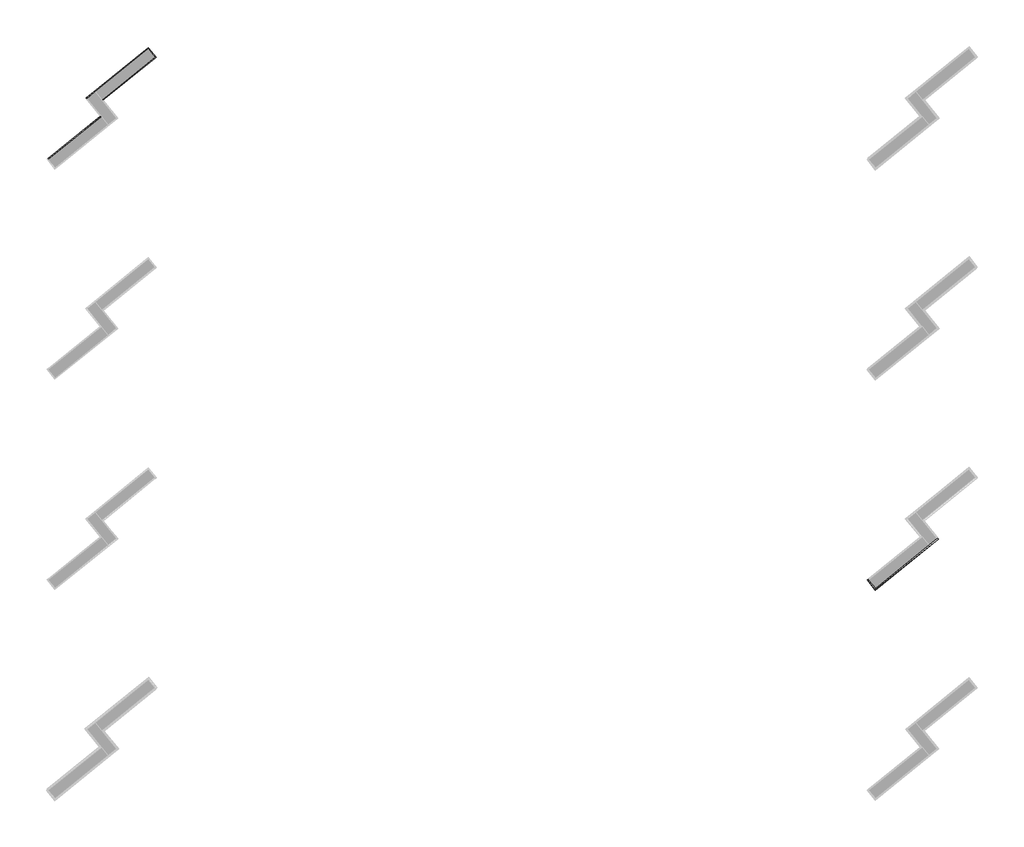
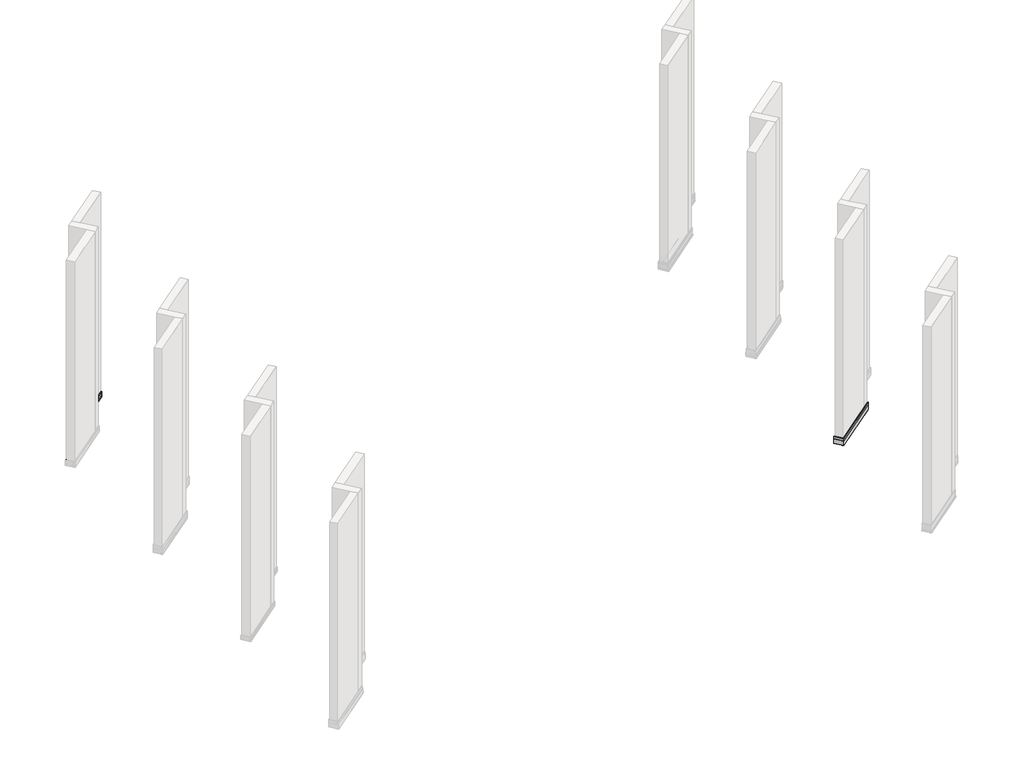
# One storey, part 12 of 21: 4 proxies.
"""IFC4 building model written with IfcOpenShell, lengths in millimetres."""

from ifc_helpers import new_model, si_unit, point, frame, frame_2d, origin, place, context, project, spatial, polyline, circle_curve, ellipse_curve, trimmed, segment, composite_curve, outline, extrude, element, save
from ifc_brep_helpers import plane_surface, cylinder_surface, advanced_brep

model = new_model("IFC4")

# Units and contexts
model_context = context("Model", 3, world=origin())
ifc_project = project(units=[si_unit("LENGTHUNIT", "METRE", prefix="MILLI")], contexts=[model_context])

# Site, building, storey
site = spatial("IfcSite", under=ifc_project)
building = spatial("IfcBuilding", under=site)
storey = spatial("IfcBuildingStorey", under=building, Name="Izofleks 2D View", Elevation=0.0)

# Proxies
placement = place(None, origin())
element("IfcBuildingElementProxy", 1, Name="Wall Sweeps", at=placement, inside=storey, context=model_context, shape_type="SweptSolid", body=[
    extrude(outline(composite_curve([segment(polyline([(6.2996999, -95.3491947), (4.6572618, -95.3491947), (6.6625595, -104.4590926)]), True, "CONTINUOUS"), segment(trimmed(circle_curve(frame_2d((6.1742498, -104.5665808)), 0.5), [point((6.6625595, -104.4590926))], [point((6.1742498, -105.0665808))], False, "CARTESIAN"), True, "CONTINUOUS"), segment(polyline([(6.1742498, -105.0665808), (5.266179, -105.0665808), (5.4147647, -105.8564137), (7.8223081, -105.8564137), (7.8223081, -78.8564259), (5.8223082, -78.8564259), (5.8223082, -77.5564259), (9.1226081, -77.5564259), (9.1226081, -153.5564259), (1.1226082, -153.5564259), (1.1226082, -152.2564232), (7.8223081, -152.2564232), (7.8223081, -136.7462137), (4.7731662, -136.7462137)]), True, "CONTINUOUS"), segment(trimmed(circle_curve(frame_2d((4.7731662, -136.2124127)), 0.533801), [point((4.7731662, -136.7462137))], [point((4.2445601, -136.1381219))], False, "CARTESIAN"), True, "CONTINUOUS"), segment(polyline([(4.2445601, -136.1381219), (2.3709258, -126.044573)]), True, "CONTINUOUS"), segment(trimmed(circle_curve(frame_2d((2.8625279, -125.9533184)), 0.5), [point((2.3709258, -126.044573))], [point((2.8625279, -125.4533184))], False, "CARTESIAN"), True, "CONTINUOUS"), segment(polyline([(2.8625279, -125.4533184), (3.7904143, -124.9389825), (1.3, -124.9389825), (1.3, -131.0491947)]), True, "CONTINUOUS"), segment(trimmed(circle_curve(frame_2d((0.3, -131.0491947)), 1.0), [point((1.3, -131.0491947))], [point((0.0, -132.0031339))], False, "CARTESIAN"), True, "CONTINUOUS"), segment(polyline([(0.0, -132.0031339), (0.0, -77.0491947), (1.3, -77.0491947), (1.3, -94.0491947), (6.2996999, -94.0491947)]), True, "CONTINUOUS"), segment(trimmed(circle_curve(frame_2d((6.2996999, -94.5491947)), 0.5), [point((6.2996999, -94.0491947))], [point((6.7766696, -94.6991947))], False, "CARTESIAN"), True, "CONTINUOUS"), segment(trimmed(circle_curve(frame_2d((6.2996999, -94.8491947)), 0.5), [point((6.7766696, -94.6991947))], [point((6.2996999, -95.3491947))], False, "CARTESIAN"), True, "CONTINUOUS")], self_intersect=False)), frame((2288.0380278, -3173.6542987, -77.0491947), z_axis=(0.7771459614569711, 0.6293203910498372, 0.0), x_axis=(0.6293203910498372, -0.7771459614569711, 0.0)), (0.0, 0.0, 1.0), 650.0),
])
element("IfcBuildingElementProxy", 2, Name="Wall Sweeps", at=placement, inside=storey, context=model_context, shape_type="AdvancedBrep", body=[
    advanced_brep(
    [(2138.5310764, -3157.9404849, 18.3), (2137.8602347, -3157.8699766, 17.65), (2138.5310764, -3157.9404849, 17.0), (2145.5629862, -3158.6795684, 17.0), (2145.5629862, -3158.6795684, 0.0), (2147.3913925, -3158.8717417, 0.0), (2147.3913925, -3158.8717417, 54.9539392), (2145.5629862, -3158.6795684, 54.0), (2145.5629862, -3158.6795684, 47.8897878), (2142.0603023, -3158.3114215, 47.8897878), (2143.3653433, -3158.4485868, 48.4041237), (2144.0567651, -3158.5212582, 48.9953783), (2141.4215615, -3158.2442871, 59.0889272), (2140.6780948, -3158.1661456, 59.697019), (2136.3895792, -3157.7154045, 59.697019), (2136.3895792, -3157.7154045, 75.2072285), (2145.8124819, -3158.7057915, 75.2072285), (2145.8124819, -3158.7057915, 76.5072312), (2134.560751, -3157.5231869, 76.5072312), (2134.560751, -3157.5231869, 0.5072312), (2139.2025119, -3158.0110556, 0.5072312), (2139.2025119, -3158.0110556, 1.8072312), (2136.3895792, -3157.7154045, 1.8072312), (2136.3895792, -3157.7154045, 28.807219), (2139.7757082, -3158.071301, 28.807219), (2139.9846888, -3158.0932657, 28.0173861), (2138.7075178, -3157.9590297, 28.0173861), (2138.0207268, -3157.886845, 27.4098979), (2140.8411104, -3158.1832793, 18.3), (2730.939326, -2680.3311663, 18.3), (2731.1821203, -2678.0211323, 18.3), (2731.2357603, -2677.5107827, 27.4098979), (2731.1635756, -2678.1975737, 28.0173861), (2731.0293395, -2679.4747447, 28.0173861), (2731.0513043, -2679.2657641, 28.807219), (2731.4072008, -2675.8796351, 28.807219), (2731.4072008, -2675.8796351, 1.8072312), (2731.1115496, -2678.6925678, 1.8072312), (2731.1115496, -2678.6925678, 0.5072312), (2731.5994184, -2674.0508069, 0.5072312), (2731.5994184, -2674.0508069, 76.5072312), (2730.4168138, -2685.3025377, 76.5072312), (2730.4168138, -2685.3025377, 75.2072285), (2731.4072008, -2675.8796351, 75.2072285), (2731.4072008, -2675.8796351, 59.697019), (2730.9564596, -2680.1681506, 59.697019), (2730.8783181, -2680.9116174, 59.0889272), (2730.6013471, -2683.5468209, 48.9953783), (2730.6740184, -2682.8553991, 48.4041237), (2730.8111838, -2681.5503581, 47.8897878), (2730.4430368, -2685.0530421, 47.8897878), (2730.4430368, -2685.0530421, 54.0), (2730.2508636, -2686.8814484, 54.9539392), (2730.2508636, -2686.8814484, 0.0), (2225.1059886, -3095.9397026, 0.0), (2730.4430368, -2685.0530421, 0.0), (2730.4430368, -2685.0530421, 17.0), (2731.1821203, -2678.0211323, 17.0), (2731.2526286, -2677.3502906, 17.65), (2803.8197325, -2767.721113, 18.3), (2802.5433183, -2768.7547328, 18.3), (2804.1017273, -2767.4927581, 27.4098979), (2803.7222394, -2767.8000613, 28.0173861), (2803.0165359, -2768.3715287, 28.0173861), (2803.1320085, -2768.2780208, 28.807219), (2805.0030213, -2766.7629046, 28.807219), (2805.0030213, -2766.7629046, 1.8072312), (2803.4487294, -2768.0215454, 1.8072312), (2803.4487294, -2768.0215454, 0.5072312), (2806.0135442, -2765.9445993, 0.5072312), (2806.0135442, -2765.9445993, 76.5072312), (2799.7963765, -2770.9791624, 76.5072312), (2799.7963765, -2770.9791624, 75.2072285), (2805.0030213, -2766.7629046, 75.2072285), (2805.0030213, -2766.7629046, 59.697019), (2802.6333929, -2768.6817918, 59.697019), (2802.2225888, -2769.0144544, 59.0889272), (2800.7665015, -2770.1935706, 48.9953783), (2801.1485481, -2769.8841954, 48.4041237), (2801.8696513, -2769.3002576, 47.8897878), (2799.9342358, -2770.8675261, 47.8897878), (2799.9342358, -2770.8675261, 54.0), (2798.9239461, -2771.6856426, 54.9539392), (2798.9239461, -2771.6856426, 0.0), (2799.9342358, -2770.8675261, 0.0), (2799.9342358, -2770.8675261, 17.0), (2803.8197325, -2767.721113, 17.0), (2804.1904075, -2767.4209463, 17.65), (2793.1829027, -2764.5960445, 0.0)],
    [
        (0, 1, ellipse_curve(frame((2138.5310764, -3157.9404849, 17.8), z_axis=(-0.10452846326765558, -0.9945218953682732, 0.0), x_axis=(0.9945218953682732, -0.1045284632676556, 0.0)), 0.7071068, 0.5)),
        (1, 2, ellipse_curve(frame((2138.5310764, -3157.9404849, 17.5), z_axis=(-0.10452846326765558, -0.9945218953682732, 0.0), x_axis=(0.9945218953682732, -0.1045284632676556, 0.0)), 0.7071068, 0.5)),
        (2, 3),
        (3, 4),
        (4, 5),
        (5, 6),
        (6, 7, ellipse_curve(frame((2146.9694526, -3158.827394, 54.0), z_axis=(-0.10452846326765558, -0.9945218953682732, 0.0), x_axis=(0.9945218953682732, -0.1045284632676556, 0.0)), 1.4142136, 1.0)),
        (7, 8),
        (8, 9),
        (9, 10),
        (10, 11, ellipse_curve(frame((2143.3653433, -3158.4485868, 48.9041237), z_axis=(-0.10452846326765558, -0.9945218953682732, 0.0), x_axis=(0.9945218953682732, -0.10452846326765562, 0.0)), 0.7071068, 0.5)),
        (11, 12),
        (12, 13, ellipse_curve(frame((2140.6780948, -3158.1661456, 59.163218), z_axis=(-0.10452846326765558, -0.9945218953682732, 0.0), x_axis=(0.9945218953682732, -0.1045284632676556, 0.0)), 0.7549087, 0.533801)),
        (13, 14),
        (14, 15),
        (15, 16),
        (16, 17),
        (17, 18),
        (18, 19),
        (19, 20),
        (20, 21),
        (21, 22),
        (22, 23),
        (23, 24),
        (24, 25),
        (25, 26),
        (26, 27, ellipse_curve(frame((2138.7075178, -3157.9590297, 27.5173861), z_axis=(-0.10452846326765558, -0.9945218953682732, 0.0), x_axis=(0.9945218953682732, -0.1045284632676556, 0.0)), 0.7071068, 0.5)),
        (27, 28),
        (28, 0),
        (29, 30),
        (30, 0),
        (28, 29),
        (31, 29),
        (27, 31),
        (32, 31, ellipse_curve(frame((2731.1635756, -2678.1975737, 27.5173861), z_axis=(-0.9945218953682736, 0.10452846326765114, 0.0), x_axis=(0.10452846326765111, 0.9945218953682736, 0.0)), 0.7071068, 0.5)),
        (26, 32),
        (33, 32),
        (25, 33),
        (34, 33),
        (24, 34),
        (35, 34),
        (23, 35),
        (36, 35),
        (22, 36),
        (37, 36),
        (21, 37),
        (38, 37),
        (20, 38),
        (39, 38),
        (19, 39),
        (40, 39),
        (18, 40),
        (41, 40),
        (17, 41),
        (42, 41),
        (16, 42),
        (43, 42),
        (15, 43),
        (44, 43),
        (14, 44),
        (45, 44),
        (13, 45),
        (46, 45, ellipse_curve(frame((2730.9564596, -2680.1681506, 59.163218), z_axis=(-0.9945218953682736, 0.10452846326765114, 0.0), x_axis=(0.10452846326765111, 0.9945218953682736, 0.0)), 0.7549087, 0.533801)),
        (12, 46),
        (47, 46),
        (11, 47),
        (48, 47, ellipse_curve(frame((2730.6740184, -2682.8553991, 48.9041237), z_axis=(-0.9945218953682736, 0.10452846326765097, 0.0), x_axis=(0.104528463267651, 0.9945218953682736, 0.0)), 0.7071068, 0.5)),
        (10, 48),
        (49, 48),
        (9, 49),
        (50, 49),
        (8, 50),
        (51, 50),
        (7, 51),
        (52, 51, ellipse_curve(frame((2730.2952113, -2686.4595085, 54.0), z_axis=(-0.9945218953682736, 0.10452846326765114, 0.0), x_axis=(0.10452846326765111, 0.9945218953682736, 0.0)), 1.4142136, 1.0)),
        (6, 52),
        (53, 52),
        (5, 54),
        (54, 53),
        (55, 53),
        (4, 55),
        (56, 55),
        (3, 56),
        (57, 56),
        (2, 57),
        (58, 57, ellipse_curve(frame((2731.1821203, -2678.0211323, 17.5), z_axis=(-0.9945218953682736, 0.10452846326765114, 0.0), x_axis=(0.10452846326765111, 0.9945218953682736, 0.0)), 0.7071068, 0.5)),
        (1, 58),
        (30, 58, ellipse_curve(frame((2731.1821203, -2678.0211323, 17.8), z_axis=(-0.9945218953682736, 0.10452846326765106, 0.0), x_axis=(0.10452846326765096, 0.9945218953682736, 0.0)), 0.7071068, 0.5)),
        (59, 60),
        (60, 61),
        (61, 62, circle_curve(frame((2803.7222394, -2767.8000613, 27.5173861), z_axis=(0.6293203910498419, -0.7771459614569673, 0.0), x_axis=(0.758979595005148, 0.614609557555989, -0.2149536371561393)), 0.5)),
        (62, 63),
        (63, 64),
        (64, 65),
        (65, 66),
        (66, 67),
        (67, 68),
        (68, 69),
        (69, 70),
        (70, 71),
        (71, 72),
        (72, 73),
        (73, 74),
        (74, 75),
        (75, 76, circle_curve(frame((2802.6333929, -2768.6817918, 59.163218), z_axis=(0.6293203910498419, -0.7771459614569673, 0.0), x_axis=(0.7771459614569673, 0.6293203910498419, 0.0)), 0.533801)),
        (76, 77),
        (77, 78, circle_curve(frame((2801.1485481, -2769.8841954, 48.9041237), z_axis=(0.629320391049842, -0.7771459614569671, 0.0), x_axis=(-0.7640931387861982, -0.6187504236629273, 0.1825091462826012)), 0.5)),
        (78, 79),
        (79, 80),
        (80, 81),
        (81, 82, circle_curve(frame((2799.1570899, -2771.4968465, 54.0), z_axis=(0.6293203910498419, -0.7771459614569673, 0.0), x_axis=(0.7771459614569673, 0.6293203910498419, 0.0)), 1.0)),
        (82, 83),
        (83, 84),
        (84, 85),
        (85, 86),
        (86, 87, circle_curve(frame((2803.8197325, -2767.721113, 17.5), z_axis=(0.6293203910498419, -0.7771459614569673, 0.0), x_axis=(0.0, 0.0, -1.0)), 0.5)),
        (87, 59, circle_curve(frame((2803.8197325, -2767.721113, 17.8), z_axis=(0.629320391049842, -0.7771459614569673, 0.0), x_axis=(0.7771459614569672, 0.6293203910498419, -1.2369127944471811e-08)), 0.5)),
        (59, 30),
        (29, 60),
        (31, 61),
        (32, 62),
        (33, 63),
        (34, 64),
        (35, 65),
        (36, 66),
        (37, 67),
        (38, 68),
        (39, 69),
        (40, 70),
        (41, 71),
        (42, 72),
        (43, 73),
        (44, 74),
        (45, 75),
        (46, 76),
        (47, 77),
        (48, 78),
        (49, 79),
        (50, 80),
        (51, 81),
        (52, 82),
        (53, 88),
        (88, 83),
        (55, 84),
        (56, 85),
        (57, 86),
        (58, 87),
    ],
    [
        plane_surface(frame((2147.3913925, -3158.8717417, -304.8), z_axis=(-0.10452846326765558, -0.9945218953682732, 0.0), x_axis=(0.9945218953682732, -0.10452846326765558, 0.0))),
        plane_surface(frame((2731.1821203, -2678.0211323, 18.3), z_axis=(0.0, 0.0, 1.0000000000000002), x_axis=(-0.7771459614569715, -0.6293203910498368, 0.0))),
        plane_surface(frame((2730.939326, -2680.3311663, 18.3), z_axis=(-0.6146064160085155, 0.7589757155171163, -0.21497631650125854), x_axis=(-0.7771459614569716, -0.6293203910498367, 0.0))),
        cylinder_surface(frame((2726.3652823, -2682.083155, 27.5173861), z_axis=(0.7771459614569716, 0.6293203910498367, 0.0), x_axis=(-0.6146095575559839, 0.7589795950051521, -0.2149536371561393)), 0.5),
        plane_surface(frame((2731.1635756, -2678.1975737, 28.0173861), z_axis=(0.0, 0.0, 1.0), x_axis=(-0.7771459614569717, -0.6293203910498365, 0.0))),
        plane_surface(frame((2731.0293395, -2679.4747447, 28.0173861), z_axis=(-0.6184716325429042, 0.7637488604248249, -0.1848797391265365), x_axis=(-0.7771459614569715, -0.6293203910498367, 0.0))),
        plane_surface(frame((2731.0513043, -2679.2657641, 28.807219), z_axis=(0.0, 0.0, -1.0), x_axis=(-0.7771459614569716, -0.6293203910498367, 0.0))),
        plane_surface(frame((2731.4072008, -2675.8796351, 28.807219), z_axis=(0.6293203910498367, -0.7771459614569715, 0.0), x_axis=(-0.7771459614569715, -0.6293203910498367, 0.0))),
        plane_surface(frame((2731.4072008, -2675.8796351, 1.8072312), z_axis=(0.0, 0.0, 1.0), x_axis=(-0.7771459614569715, -0.6293203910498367, 0.0))),
        plane_surface(frame((2731.1115496, -2678.6925678, 1.8072312), z_axis=(0.6293203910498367, -0.7771459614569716, 0.0), x_axis=(-0.7771459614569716, -0.6293203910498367, 0.0))),
        plane_surface(frame((2731.1115496, -2678.6925678, 0.5072312), z_axis=(0.0, 0.0, -1.0), x_axis=(-0.7771459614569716, -0.6293203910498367, 0.0))),
        plane_surface(frame((2731.5994184, -2674.0508069, 0.5072312), z_axis=(-0.629320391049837, 0.7771459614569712, 0.0), x_axis=(-0.7771459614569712, -0.629320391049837, 0.0))),
        plane_surface(frame((2731.5994184, -2674.0508069, 76.5072312), z_axis=(0.0, 0.0, 1.0), x_axis=(-0.7771459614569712, -0.629320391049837, 0.0))),
        plane_surface(frame((2730.4168138, -2685.3025377, 76.5072312), z_axis=(0.6293203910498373, -0.777145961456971, 0.0), x_axis=(-0.777145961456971, -0.6293203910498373, 0.0))),
        plane_surface(frame((2730.4168138, -2685.3025377, 75.2072285), z_axis=(0.0, 0.0, -1.0), x_axis=(-0.777145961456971, -0.6293203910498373, 0.0))),
        plane_surface(frame((2731.4072008, -2675.8796351, 75.2072285), z_axis=(0.6293203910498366, -0.7771459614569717, 0.0), x_axis=(-0.7771459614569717, -0.6293203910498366, 0.0))),
        plane_surface(frame((2731.4072008, -2675.8796351, 59.697019), z_axis=(0.0, 0.0, 1.0000000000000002), x_axis=(-0.7771459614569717, -0.6293203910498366, 0.0))),
        cylinder_surface(frame((2727.2470127, -2683.1720015, 59.163218), z_axis=(0.7771459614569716, 0.6293203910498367, 0.0), x_axis=(-0.6293203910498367, 0.7771459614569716, 0.0)), 0.533801),
        plane_surface(frame((2730.8783181, -2680.9116174, 59.0889272), z_axis=(0.618750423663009, -0.7640931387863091, 0.18250914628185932), x_axis=(-0.7771459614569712, -0.6293203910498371, 0.0))),
        cylinder_surface(frame((2728.4494164, -2684.6568463, 48.9041237), z_axis=(0.7771459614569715, 0.6293203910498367, 0.0), x_axis=(0.6187504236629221, -0.7640931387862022, 0.18250914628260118)), 0.5),
        plane_surface(frame((2730.6740184, -2682.8553991, 48.4041237), z_axis=(0.30510057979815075, -0.3767678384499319, -0.8746197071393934), x_axis=(-0.7771459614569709, -0.6293203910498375, 0.0))),
        plane_surface(frame((2730.8111838, -2681.5503581, 47.8897878), z_axis=(0.0, 0.0, 1.0), x_axis=(-0.7771459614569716, -0.6293203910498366, 0.0))),
        plane_surface(frame((2730.4430368, -2685.0530421, 47.8897878), z_axis=(-0.6293203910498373, 0.7771459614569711, 0.0), x_axis=(-0.7771459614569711, -0.6293203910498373, 0.0))),
        cylinder_surface(frame((2730.0620675, -2686.6483046, 54.0), z_axis=(0.7771459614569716, 0.6293203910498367, 0.0), x_axis=(-0.6293203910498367, 0.7771459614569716, 0.0)), 1.0),
        plane_surface(frame((2730.2508636, -2686.8814484, 54.9539392), z_axis=(0.6293203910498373, -0.777145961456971, 0.0), x_axis=(-0.777145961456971, -0.6293203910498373, 0.0))),
        plane_surface(frame((2730.2508636, -2686.8814484, 0.0), z_axis=(0.0, 0.0, -1.0), x_axis=(-0.777145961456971, -0.6293203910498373, 0.0))),
        plane_surface(frame((2730.4430368, -2685.0530421, 0.0), z_axis=(-0.6293203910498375, 0.7771459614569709, 0.0), x_axis=(-0.7771459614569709, -0.6293203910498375, 0.0))),
        plane_surface(frame((2730.4430368, -2685.0530421, 17.0), z_axis=(0.0, 0.0, -1.0), x_axis=(-0.7771459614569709, -0.6293203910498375, 0.0))),
        cylinder_surface(frame((2726.2863339, -2681.985662, 17.5), z_axis=(0.7771459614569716, 0.6293203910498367, 0.0), x_axis=(0.0, 0.0, -1.0)), 0.5),
        cylinder_surface(frame((2726.2863339, -2681.985662, 17.8), z_axis=(0.7771459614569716, 0.6293203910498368, 0.0), x_axis=(-0.6293203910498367, 0.7771459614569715, -1.2369127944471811e-08)), 0.5),
        plane_surface(frame((2798.9239461, -2771.6856426, 0.0), z_axis=(0.6293203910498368, -0.7771459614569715, 0.0), x_axis=(-0.7771459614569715, -0.6293203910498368, 0.0))),
        plane_surface(frame((2803.8197325, -2767.721113, 18.3), z_axis=(0.0, 0.0, 1.0000000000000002), x_axis=(-0.6293203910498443, 0.7771459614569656, 0.0))),
        plane_surface(frame((2802.5433183, -2768.7547328, 18.3), z_axis=(0.7589757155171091, 0.6146064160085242, -0.21497631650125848), x_axis=(-0.6293203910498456, 0.7771459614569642, 0.0))),
        cylinder_surface(frame((2803.7222394, -2767.8000613, 27.5173861), z_axis=(0.6293203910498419, -0.7771459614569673, 0.0), x_axis=(0.758979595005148, 0.614609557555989, -0.2149536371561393)), 0.5),
        plane_surface(frame((2803.7222394, -2767.8000613, 28.0173861), z_axis=(0.0, 0.0, 1.0), x_axis=(-0.6293203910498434, 0.7771459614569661, 0.0))),
        plane_surface(frame((2803.0165359, -2768.3715287, 28.0173861), z_axis=(0.7637488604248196, 0.618471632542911, -0.1848797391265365), x_axis=(-0.6293203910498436, 0.7771459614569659, 0.0))),
        plane_surface(frame((2803.1320085, -2768.2780208, 28.807219), z_axis=(0.0, 0.0, -1.0), x_axis=(-0.6293203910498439, 0.7771459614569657, 0.0))),
        plane_surface(frame((2805.0030213, -2766.7629046, 28.807219), z_axis=(-0.7771459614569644, -0.6293203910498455, 0.0), x_axis=(-0.6293203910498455, 0.7771459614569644, 0.0))),
        plane_surface(frame((2805.0030213, -2766.7629046, 1.8072312), z_axis=(0.0, 0.0, 1.0), x_axis=(-0.6293203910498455, 0.7771459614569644, 0.0))),
        plane_surface(frame((2803.4487294, -2768.0215454, 1.8072312), z_axis=(-0.7771459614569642, -0.6293203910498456, 0.0), x_axis=(-0.6293203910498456, 0.7771459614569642, 0.0))),
        plane_surface(frame((2803.4487294, -2768.0215454, 0.5072312), z_axis=(0.0, 0.0, -1.0), x_axis=(-0.6293203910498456, 0.7771459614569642, 0.0))),
        plane_surface(frame((2806.0135442, -2765.9445993, 0.5072312), z_axis=(0.7771459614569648, 0.629320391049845, 0.0), x_axis=(-0.629320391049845, 0.7771459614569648, 0.0))),
        plane_surface(frame((2806.0135442, -2765.9445993, 76.5072312), z_axis=(0.0, 0.0, 1.0000000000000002), x_axis=(-0.629320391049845, 0.7771459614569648, 0.0))),
        plane_surface(frame((2799.7963765, -2770.9791624, 76.5072312), z_axis=(-0.7771459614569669, -0.6293203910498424, 0.0), x_axis=(-0.6293203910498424, 0.7771459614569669, 0.0))),
        plane_surface(frame((2799.7963765, -2770.9791624, 75.2072285), z_axis=(0.0, 0.0, -1.0), x_axis=(-0.6293203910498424, 0.7771459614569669, 0.0))),
        plane_surface(frame((2805.0030213, -2766.7629046, 75.2072285), z_axis=(-0.777145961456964, -0.629320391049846, 0.0), x_axis=(-0.629320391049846, 0.777145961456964, 0.0))),
        plane_surface(frame((2805.0030213, -2766.7629046, 59.697019), z_axis=(0.0, 0.0, 1.0000000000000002), x_axis=(-0.629320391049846, 0.777145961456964, 0.0))),
        cylinder_surface(frame((2802.6333929, -2768.6817918, 59.163218), z_axis=(0.6293203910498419, -0.7771459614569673, 0.0), x_axis=(0.7771459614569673, 0.6293203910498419, 0.0)), 0.533801),
        plane_surface(frame((2802.2225888, -2769.0144544, 59.0889272), z_axis=(-0.7640931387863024, -0.6187504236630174, 0.18250914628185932), x_axis=(-0.6293203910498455, 0.7771459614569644, 0.0))),
        cylinder_surface(frame((2801.1485481, -2769.8841954, 48.9041237), z_axis=(0.6293203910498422, -0.7771459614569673, 0.0), x_axis=(-0.7640931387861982, -0.6187504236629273, 0.1825091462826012)), 0.5),
        plane_surface(frame((2801.1485481, -2769.8841954, 48.4041237), z_axis=(-0.37676783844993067, -0.3051005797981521, -0.8746197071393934), x_axis=(-0.6293203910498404, 0.7771459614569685, 0.0))),
        plane_surface(frame((2801.8696513, -2769.3002576, 47.8897878), z_axis=(0.0, 0.0, 1.0), x_axis=(-0.6293203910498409, 0.777145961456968, 0.0))),
        plane_surface(frame((2799.9342358, -2770.8675261, 47.8897878), z_axis=(0.7771459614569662, 0.6293203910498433, 0.0), x_axis=(-0.6293203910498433, 0.7771459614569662, 0.0))),
        cylinder_surface(frame((2799.1570899, -2771.4968465, 54.0), z_axis=(0.6293203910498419, -0.7771459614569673, 0.0), x_axis=(0.7771459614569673, 0.6293203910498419, 0.0)), 1.0),
        plane_surface(frame((2798.9239461, -2771.6856426, 54.9539392), z_axis=(-0.777145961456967, -0.6293203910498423, 0.0), x_axis=(-0.6293203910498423, 0.777145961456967, 0.0))),
        plane_surface(frame((2798.9239461, -2771.6856426, 0.0), z_axis=(0.0, 0.0, -1.0), x_axis=(-0.6293203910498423, 0.777145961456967, 0.0))),
        plane_surface(frame((2799.9342358, -2770.8675261, 0.0), z_axis=(0.7771459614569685, 0.6293203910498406, 0.0), x_axis=(-0.6293203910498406, 0.7771459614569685, 0.0))),
        plane_surface(frame((2799.9342358, -2770.8675261, 17.0), z_axis=(0.0, 0.0, -1.0000000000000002), x_axis=(-0.6293203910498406, 0.7771459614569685, 0.0))),
        cylinder_surface(frame((2803.8197325, -2767.721113, 17.5), z_axis=(0.6293203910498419, -0.7771459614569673, 0.0), x_axis=(0.0, 0.0, -1.0)), 0.5),
        cylinder_surface(frame((2803.8197325, -2767.721113, 17.8), z_axis=(0.629320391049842, -0.7771459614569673, 0.0), x_axis=(0.7771459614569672, 0.6293203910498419, -1.2369127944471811e-08)), 0.5),
    ],
    [
        (0, [[1, 2, 3, 4, 5, 6, 7, 8, 9, 10, 11, 12, 13, 14, 15, 16, 17, 18, 19, 20, 21, 22, 23, 24, 25, 26, 27, 28, 29]]),
        (1, [[30, 31, -29, 32]]),
        (2, [[33, -32, -28, 34]]),
        (3, [[35, -34, -27, 36]]),
        (4, [[37, -36, -26, 38]]),
        (5, [[39, -38, -25, 40]]),
        (6, [[41, -40, -24, 42]]),
        (7, [[43, -42, -23, 44]]),
        (8, [[45, -44, -22, 46]]),
        (9, [[47, -46, -21, 48]]),
        (10, [[49, -48, -20, 50]]),
        (11, [[51, -50, -19, 52]]),
        (12, [[53, -52, -18, 54]]),
        (13, [[55, -54, -17, 56]]),
        (14, [[57, -56, -16, 58]]),
        (15, [[59, -58, -15, 60]]),
        (16, [[61, -60, -14, 62]]),
        (17, [[63, -62, -13, 64]]),
        (18, [[65, -64, -12, 66]]),
        (19, [[67, -66, -11, 68]]),
        (20, [[69, -68, -10, 70]]),
        (21, [[71, -70, -9, 72]]),
        (22, [[73, -72, -8, 74]]),
        (23, [[75, -74, -7, 76]]),
        (24, [[77, -76, -6, 78, 79]]),
        (25, [[80, -79, -78, -5, 81]]),
        (26, [[82, -81, -4, 83]]),
        (27, [[84, -83, -3, 85]]),
        (28, [[86, -85, -2, 87]]),
        (29, [[88, -87, -1, -31]]),
        (30, [[89, 90, 91, 92, 93, 94, 95, 96, 97, 98, 99, 100, 101, 102, 103, 104, 105, 106, 107, 108, 109, 110, 111, 112, 113, 114, 115, 116, 117]]),
        (31, [[-89, 118, -30, 119]]),
        (32, [[-90, -119, -33, 120]]),
        (33, [[-91, -120, -35, 121]]),
        (34, [[-92, -121, -37, 122]]),
        (35, [[-93, -122, -39, 123]]),
        (36, [[-94, -123, -41, 124]]),
        (37, [[-95, -124, -43, 125]]),
        (38, [[-96, -125, -45, 126]]),
        (39, [[-97, -126, -47, 127]]),
        (40, [[-98, -127, -49, 128]]),
        (41, [[-99, -128, -51, 129]]),
        (42, [[-100, -129, -53, 130]]),
        (43, [[-101, -130, -55, 131]]),
        (44, [[-102, -131, -57, 132]]),
        (45, [[-103, -132, -59, 133]]),
        (46, [[-104, -133, -61, 134]]),
        (47, [[-105, -134, -63, 135]]),
        (48, [[-106, -135, -65, 136]]),
        (49, [[-107, -136, -67, 137]]),
        (50, [[-108, -137, -69, 138]]),
        (51, [[-109, -138, -71, 139]]),
        (52, [[-110, -139, -73, 140]]),
        (53, [[-111, -140, -75, 141]]),
        (54, [[-112, -141, -77, 142, 143]]),
        (55, [[-113, -143, -142, -80, 144]]),
        (56, [[-114, -144, -82, 145]]),
        (57, [[-115, -145, -84, 146]]),
        (58, [[-116, -146, -86, 147]]),
        (59, [[-117, -147, -88, -118]]),
    ],
),
])
element("IfcBuildingElementProxy", 3, Name="Wall Sweeps", at=placement, inside=storey, context=model_context, shape_type="AdvancedBrep", body=[
    advanced_brep(
    [(2276.9815624, -3328.9125964, 18.3), (2279.2915965, -3329.1553908, 18.3), (2276.4712128, -3328.8589565, 27.4098979), (2277.1580039, -3328.9311412, 28.0173861), (2278.4351748, -3329.0653773, 28.0173861), (2278.2261942, -3329.0434125, 28.807219), (2274.8400653, -3328.687516, 28.807219), (2274.8400653, -3328.687516, 1.8072312), (2277.652998, -3328.9831672, 1.8072312), (2277.652998, -3328.9831672, 0.5072312), (2273.0112371, -3328.4952984, 0.5072312), (2273.0112371, -3328.4952984, 76.5072312), (2284.2629679, -3329.677903, 76.5072312), (2284.2629679, -3329.677903, 75.2072285), (2274.8400653, -3328.687516, 75.2072285), (2274.8400653, -3328.687516, 59.697019), (2279.1285808, -3329.1382572, 59.697019), (2279.8720475, -3329.2163987, 59.0889272), (2282.5072511, -3329.4933697, 48.9953783), (2281.8158293, -3329.4206984, 48.4041237), (2280.5107883, -3329.283533, 47.8897878), (2284.0134723, -3329.6516799, 47.8897878), (2284.0134723, -3329.6516799, 54.0), (2285.8418785, -3329.8438532, 54.9539392), (2285.8418785, -3329.8438532, 0.0), (2284.0134723, -3329.6516799, 0.0), (2284.0134723, -3329.6516799, 17.0), (2276.9815625, -3328.9125964, 17.0), (2276.3107208, -3328.8420881, 17.65), (1776.7324739, -3734.0063209, 18.3), (1776.4323072, -3733.635646, 17.65), (1776.7324739, -3734.006321, 17.0), (1779.8788871, -3737.8918176, 17.0), (1779.8788871, -3737.8918176, 0.0), (1780.6970036, -3738.9021074, 0.0), (1780.6970036, -3738.9021074, 54.9539392), (1779.8788871, -3737.8918176, 54.0), (1779.8788871, -3737.8918176, 47.8897878), (1778.3116185, -3735.9564022, 47.8897878), (1778.8955564, -3736.6775053, 48.4041237), (1779.2049316, -3737.0595519, 48.9953783), (1778.0258153, -3735.6034646, 59.0889272), (1777.6931527, -3735.1926605, 59.697019), (1775.7742655, -3732.8230321, 59.697019), (1775.7742655, -3732.8230321, 75.2072285), (1779.9905234, -3738.0296769, 75.2072285), (1779.9905234, -3738.0296769, 76.5072312), (1774.9559602, -3731.8125092, 76.5072312), (1774.9559602, -3731.8125092, 0.5072312), (1777.0329063, -3734.3773241, 0.5072312), (1777.0329063, -3734.3773241, 1.8072312), (1775.7742655, -3732.8230321, 1.8072312), (1775.7742655, -3732.8230321, 28.807219), (1777.2893818, -3734.6940449, 28.807219), (1777.3828897, -3734.8095175, 28.0173861), (1776.8114223, -3734.103814, 28.0173861), (1776.5041191, -3733.7243262, 27.4098979), (1777.7660937, -3735.2827351, 18.3)],
    [
        (0, 1),
        (1, 2),
        (2, 3, ellipse_curve(frame((2277.1580039, -3328.9311412, 27.5173861), z_axis=(0.1045284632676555, 0.9945218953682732, 0.0), x_axis=(0.9945218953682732, -0.10452846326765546, 0.0)), 0.7071068, 0.5)),
        (3, 4),
        (4, 5),
        (5, 6),
        (6, 7),
        (7, 8),
        (8, 9),
        (9, 10),
        (10, 11),
        (11, 12),
        (12, 13),
        (13, 14),
        (14, 15),
        (15, 16),
        (16, 17, ellipse_curve(frame((2279.1285808, -3329.1382572, 59.163218), z_axis=(0.1045284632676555, 0.9945218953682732, 0.0), x_axis=(0.9945218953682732, -0.10452846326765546, 0.0)), 0.7549087, 0.533801)),
        (17, 18),
        (18, 19, ellipse_curve(frame((2281.8158293, -3329.4206984, 48.9041237), z_axis=(0.1045284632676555, 0.9945218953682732, 0.0), x_axis=(0.9945218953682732, -0.10452846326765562, 0.0)), 0.7071068, 0.5)),
        (19, 20),
        (20, 21),
        (21, 22),
        (22, 23, ellipse_curve(frame((2285.4199386, -3329.7995055, 54.0), z_axis=(0.1045284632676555, 0.9945218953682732, 0.0), x_axis=(0.9945218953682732, -0.10452846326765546, 0.0)), 1.4142136, 1.0)),
        (23, 24),
        (24, 25),
        (25, 26),
        (26, 27),
        (27, 28, ellipse_curve(frame((2276.9815625, -3328.9125964, 17.5), z_axis=(0.1045284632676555, 0.9945218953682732, 0.0), x_axis=(0.9945218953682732, -0.10452846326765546, 0.0)), 0.7071068, 0.5)),
        (28, 0, ellipse_curve(frame((2276.9815624, -3328.9125964, 17.8), z_axis=(0.1045284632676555, 0.9945218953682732, 0.0), x_axis=(0.9945218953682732, -0.10452846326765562, 0.0)), 0.7071068, 0.5)),
        (29, 30, circle_curve(frame((1776.7324739, -3734.0063209, 17.8), z_axis=(-0.7771459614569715, -0.629320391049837, 0.0), x_axis=(-0.6293203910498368, 0.7771459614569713, -1.2369127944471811e-08)), 0.5)),
        (30, 31, circle_curve(frame((1776.7324739, -3734.006321, 17.5), z_axis=(-0.7771459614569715, -0.6293203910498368, 0.0), x_axis=(0.0, 0.0, -1.0)), 0.5)),
        (31, 32),
        (32, 33),
        (33, 34),
        (34, 35),
        (35, 36, circle_curve(frame((1780.5082075, -3738.6689636, 54.0), z_axis=(-0.7771459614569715, -0.6293203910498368, 0.0), x_axis=(-0.6293203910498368, 0.7771459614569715, 0.0)), 1.0)),
        (36, 37),
        (37, 38),
        (38, 39),
        (39, 40, circle_curve(frame((1778.8955564, -3736.6775053, 48.9041237), z_axis=(-0.7771459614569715, -0.6293203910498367, 0.0), x_axis=(0.6187504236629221, -0.7640931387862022, 0.18250914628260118)), 0.5)),
        (40, 41),
        (41, 42, circle_curve(frame((1777.6931527, -3735.1926605, 59.163218), z_axis=(-0.7771459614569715, -0.6293203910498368, 0.0), x_axis=(-0.6293203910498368, 0.7771459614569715, 0.0)), 0.533801)),
        (42, 43),
        (43, 44),
        (44, 45),
        (45, 46),
        (46, 47),
        (47, 48),
        (48, 49),
        (49, 50),
        (50, 51),
        (51, 52),
        (52, 53),
        (53, 54),
        (54, 55),
        (55, 56, circle_curve(frame((1776.8114223, -3734.103814, 27.5173861), z_axis=(-0.7771459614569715, -0.6293203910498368, 0.0), x_axis=(-0.614609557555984, 0.758979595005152, -0.2149536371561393)), 0.5)),
        (56, 57),
        (57, 29),
        (0, 29),
        (57, 1),
        (56, 2),
        (55, 3),
        (54, 4),
        (53, 5),
        (52, 6),
        (51, 7),
        (50, 8),
        (49, 9),
        (48, 10),
        (47, 11),
        (46, 12),
        (45, 13),
        (44, 14),
        (43, 15),
        (42, 16),
        (41, 17),
        (40, 18),
        (39, 19),
        (38, 20),
        (37, 21),
        (36, 22),
        (35, 23),
        (34, 24),
        (33, 25),
        (32, 26),
        (31, 27),
        (30, 28),
    ],
    [
        plane_surface(frame((2285.8418785, -3329.8438532, 304.8), z_axis=(0.1045284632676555, 0.9945218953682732, 0.0), x_axis=(-0.9945218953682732, 0.1045284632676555, 0.0))),
        plane_surface(frame((1780.6970036, -3738.9021074, -77.0491947), z_axis=(-0.7771459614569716, -0.6293203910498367, 0.0), x_axis=(0.6293203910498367, -0.7771459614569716, 0.0))),
        plane_surface(frame((2276.9815624, -3328.9125964, 18.3), z_axis=(0.0, 0.0, 1.0), x_axis=(-0.7771459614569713, -0.6293203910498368, 0.0))),
        plane_surface(frame((2279.2915965, -3329.1553908, 18.3), z_axis=(-0.614606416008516, 0.758975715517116, -0.21497631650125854), x_axis=(-0.7771459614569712, -0.6293203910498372, 0.0))),
        cylinder_surface(frame((2281.9562972, -3325.0455599, 27.5173861), z_axis=(0.7771459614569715, 0.6293203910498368, 0.0), x_axis=(-0.614609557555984, 0.758979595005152, -0.2149536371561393)), 0.5),
        plane_surface(frame((2277.1580039, -3328.9311412, 28.0173861), z_axis=(0.0, 0.0, 1.0), x_axis=(-0.7771459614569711, -0.6293203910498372, 0.0))),
        plane_surface(frame((2278.4351748, -3329.0653773, 28.0173861), z_axis=(-0.6184716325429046, 0.7637488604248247, -0.1848797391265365), x_axis=(-0.7771459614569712, -0.6293203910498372, 0.0))),
        plane_surface(frame((2278.2261942, -3329.0434125, 28.807219), z_axis=(0.0, 0.0, -1.0), x_axis=(-0.7771459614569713, -0.629320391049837, 0.0))),
        plane_surface(frame((2274.8400653, -3328.687516, 28.807219), z_axis=(0.629320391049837, -0.7771459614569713, 0.0), x_axis=(-0.7771459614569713, -0.629320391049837, 0.0))),
        plane_surface(frame((2274.8400653, -3328.687516, 1.8072312), z_axis=(0.0, 0.0, 1.0), x_axis=(-0.7771459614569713, -0.629320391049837, 0.0))),
        plane_surface(frame((2277.652998, -3328.9831672, 1.8072312), z_axis=(0.6293203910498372, -0.7771459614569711, 0.0), x_axis=(-0.7771459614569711, -0.6293203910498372, 0.0))),
        plane_surface(frame((2277.652998, -3328.9831672, 0.5072312), z_axis=(0.0, 0.0, -1.0), x_axis=(-0.7771459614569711, -0.6293203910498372, 0.0))),
        plane_surface(frame((2273.0112371, -3328.4952984, 0.5072312), z_axis=(-0.6293203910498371, 0.7771459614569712, 0.0), x_axis=(-0.7771459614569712, -0.6293203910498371, 0.0))),
        plane_surface(frame((2273.0112371, -3328.4952984, 76.5072312), z_axis=(0.0, 0.0, 1.0), x_axis=(-0.7771459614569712, -0.6293203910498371, 0.0))),
        plane_surface(frame((2284.2629679, -3329.677903, 76.5072312), z_axis=(0.6293203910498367, -0.7771459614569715, 0.0), x_axis=(-0.7771459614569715, -0.6293203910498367, 0.0))),
        plane_surface(frame((2284.2629679, -3329.677903, 75.2072285), z_axis=(0.0, 0.0, -1.0), x_axis=(-0.7771459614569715, -0.6293203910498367, 0.0))),
        plane_surface(frame((2274.8400653, -3328.687516, 75.2072285), z_axis=(0.6293203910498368, -0.7771459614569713, 0.0), x_axis=(-0.7771459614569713, -0.6293203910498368, 0.0))),
        plane_surface(frame((2274.8400653, -3328.687516, 59.697019), z_axis=(0.0, 0.0, 1.0), x_axis=(-0.7771459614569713, -0.6293203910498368, 0.0))),
        cylinder_surface(frame((2282.8380277, -3326.1344063, 59.163218), z_axis=(0.7771459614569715, 0.6293203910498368, 0.0), x_axis=(-0.6293203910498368, 0.7771459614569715, 0.0)), 0.533801),
        plane_surface(frame((2279.8720475, -3329.2163987, 59.0889272), z_axis=(0.6187504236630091, -0.764093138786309, 0.18250914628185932), x_axis=(-0.7771459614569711, -0.6293203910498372, 0.0))),
        cylinder_surface(frame((2284.0404313, -3327.6192512, 48.9041237), z_axis=(0.7771459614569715, 0.6293203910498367, 0.0), x_axis=(0.6187504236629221, -0.7640931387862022, 0.18250914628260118)), 0.5),
        plane_surface(frame((2281.8158293, -3329.4206984, 48.4041237), z_axis=(0.3051005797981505, -0.37676783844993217, -0.8746197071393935), x_axis=(-0.7771459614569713, -0.6293203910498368, 0.0))),
        plane_surface(frame((2280.5107883, -3329.283533, 47.8897878), z_axis=(0.0, 0.0, 1.0000000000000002), x_axis=(-0.7771459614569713, -0.6293203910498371, 0.0))),
        plane_surface(frame((2284.0134723, -3329.6516799, 47.8897878), z_axis=(-0.6293203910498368, 0.7771459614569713, 0.0), x_axis=(-0.7771459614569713, -0.6293203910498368, 0.0))),
        cylinder_surface(frame((2285.6530824, -3329.6107094, 54.0), z_axis=(0.7771459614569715, 0.6293203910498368, 0.0), x_axis=(-0.6293203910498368, 0.7771459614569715, 0.0)), 1.0),
        plane_surface(frame((2285.8418785, -3329.8438532, 54.9539392), z_axis=(0.629320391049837, -0.7771459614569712, 0.0), x_axis=(-0.7771459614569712, -0.629320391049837, 0.0))),
        plane_surface(frame((2285.8418785, -3329.8438532, 0.0), z_axis=(0.0, 0.0, -1.0), x_axis=(-0.7771459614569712, -0.629320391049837, 0.0))),
        plane_surface(frame((2284.0134723, -3329.6516799, 0.0), z_axis=(-0.629320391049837, 0.7771459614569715, 0.0), x_axis=(-0.7771459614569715, -0.629320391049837, 0.0))),
        plane_surface(frame((2284.0134723, -3329.6516799, 17.0), z_axis=(0.0, 0.0, -1.0000000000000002), x_axis=(-0.7771459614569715, -0.629320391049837, 0.0))),
        cylinder_surface(frame((2281.8773489, -3324.9480668, 17.5), z_axis=(0.7771459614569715, 0.6293203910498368, 0.0), x_axis=(0.0, 0.0, -1.0)), 0.5),
        cylinder_surface(frame((2281.8773489, -3324.9480668, 17.8), z_axis=(0.7771459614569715, 0.629320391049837, 0.0), x_axis=(-0.6293203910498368, 0.7771459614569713, -1.2369127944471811e-08)), 0.5),
    ],
    [
        (0, [[1, 2, 3, 4, 5, 6, 7, 8, 9, 10, 11, 12, 13, 14, 15, 16, 17, 18, 19, 20, 21, 22, 23, 24, 25, 26, 27, 28, 29]]),
        (1, [[30, 31, 32, 33, 34, 35, 36, 37, 38, 39, 40, 41, 42, 43, 44, 45, 46, 47, 48, 49, 50, 51, 52, 53, 54, 55, 56, 57, 58]]),
        (2, [[-1, 59, -58, 60]]),
        (3, [[-2, -60, -57, 61]]),
        (4, [[-3, -61, -56, 62]]),
        (5, [[-4, -62, -55, 63]]),
        (6, [[-5, -63, -54, 64]]),
        (7, [[-6, -64, -53, 65]]),
        (8, [[-7, -65, -52, 66]]),
        (9, [[-8, -66, -51, 67]]),
        (10, [[-9, -67, -50, 68]]),
        (11, [[-10, -68, -49, 69]]),
        (12, [[-11, -69, -48, 70]]),
        (13, [[-12, -70, -47, 71]]),
        (14, [[-13, -71, -46, 72]]),
        (15, [[-14, -72, -45, 73]]),
        (16, [[-15, -73, -44, 74]]),
        (17, [[-16, -74, -43, 75]]),
        (18, [[-17, -75, -42, 76]]),
        (19, [[-18, -76, -41, 77]]),
        (20, [[-19, -77, -40, 78]]),
        (21, [[-20, -78, -39, 79]]),
        (22, [[-21, -79, -38, 80]]),
        (23, [[-22, -80, -37, 81]]),
        (24, [[-23, -81, -36, 82]]),
        (25, [[-24, -82, -35, 83]]),
        (26, [[-25, -83, -34, 84]]),
        (27, [[-26, -84, -33, 85]]),
        (28, [[-27, -85, -32, 86]]),
        (29, [[-28, -86, -31, 87]]),
        (30, [[-29, -87, -30, -59]]),
    ],
),
])
element("IfcBuildingElementProxy", 4, Name="Wall Sweeps", at=placement, inside=storey, context=model_context, shape_type="AdvancedBrep", body=[
    advanced_brep(
    [(10229.2062215, -7344.9120528, 100.0761589), (10242.7742502, -7346.3381101, 100.0761589), (10245.6625069, -7346.6416781, 98.0903335), (10245.6665971, -7346.642108, 69.0770336), (10243.8004855, -7346.4459718, 69.0768883), (10243.8008943, -7346.4460147, 66.9998348), (10245.6210123, -7346.6373169, 66.9999802), (10245.6167196, -7346.6368657, 2.9999622), (10241.3973737, -7346.1933945, 2.9999622), (10241.3973737, -7346.1933945, 0.0), (10239.569079, -7346.001233, 0.0), (10239.569079, -7346.001233, 4.3000282), (10243.7880161, -7346.4446612, 4.3000282), (10243.7880161, -7346.4446612, 25.0000729), (10226.4885138, -7344.6264102, 25.0000729), (10226.4885138, -7344.6264102, 95.8999603), (10229.2066303, -7344.9120958, 95.8999603), (9573.4542851, -7733.0285418, 100.0761589), (9573.4540592, -7733.0287247, 95.8999603), (9574.9559602, -7731.8125092, 95.8999603), (9574.9559602, -7731.8125092, 25.0000729), (9565.3970836, -7739.5531349, 25.0000729), (9565.3970836, -7739.5531349, 4.3000282), (9567.7282662, -7737.6653805, 4.3000282), (9567.7282662, -7737.6653805, 0.0), (9566.7180381, -7738.483447, 0.0), (9566.7180381, -7738.483447, 2.9999622), (9564.3866296, -7740.3713844, 2.9999622), (9564.3842576, -7740.3733052, 66.9999802), (9565.3899677, -7739.5588973, 66.9998348), (9565.3901936, -7739.5587143, 69.0768883), (9564.3590697, -7740.393702, 69.0770336), (9564.3613297, -7740.3918718, 98.0903335), (9565.9572421, -7739.0995275, 100.0761589), (9643.3434001, -7819.3344112, 100.0761589), (9641.9173428, -7832.90244, 100.0761589), (9641.6137748, -7835.7906966, 98.0903335), (9641.6133449, -7835.7947868, 69.0770336), (9641.8094811, -7833.9286752, 69.0768883), (9641.8094382, -7833.929084, 66.9998348), (9641.6181361, -7835.7492021, 66.9999802), (9641.6185872, -7835.7449093, 2.9999622), (9642.0620584, -7831.5255634, 2.9999622), (9642.0620584, -7831.5255634, 0.0), (9642.2542199, -7829.6972687, 0.0), (9642.2542199, -7829.6972687, 4.3000282), (9641.8107917, -7833.9162058, 4.3000282), (9641.8107917, -7833.9162058, 25.0000729), (9643.6290427, -7816.6167035, 25.0000729), (9643.6290427, -7816.6167035, 95.8999603), (9643.3433571, -7819.33482, 95.8999603)],
    [
        (0, 1),
        (1, 2, ellipse_curve(frame((10242.8496378, -7346.3460337, 98.0768773), z_axis=(0.10452846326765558, 0.9945218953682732, 0.0), x_axis=(0.9945218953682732, -0.10452846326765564, 0.0)), 2.8284271, 2.0)),
        (2, 3),
        (3, 4),
        (4, 5),
        (5, 6),
        (6, 7),
        (7, 8),
        (8, 9),
        (9, 10),
        (10, 11),
        (11, 12),
        (12, 13),
        (13, 14),
        (14, 15),
        (15, 16),
        (16, 0),
        (17, 18),
        (18, 19),
        (19, 20),
        (20, 21),
        (21, 22),
        (22, 23),
        (23, 24),
        (24, 25),
        (25, 26),
        (26, 27),
        (27, 28),
        (28, 29),
        (29, 30),
        (30, 31),
        (31, 32),
        (32, 33, circle_curve(frame((9565.9155865, -7739.1332596, 98.0768773), z_axis=(-0.6293203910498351, 0.7771459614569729, 0.0), x_axis=(-0.7771459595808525, -0.6293203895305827, 6.948547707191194e-05)), 2.0)),
        (33, 17),
        (0, 34),
        (34, 35),
        (35, 1),
        (35, 36, ellipse_curve(frame((9641.9094193, -7832.9778276, 98.0768773), z_axis=(0.9945218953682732, -0.10452846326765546, 0.0), x_axis=(0.10452846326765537, 0.9945218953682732, 0.0)), 2.8284271, 2.0)),
        (36, 2),
        (36, 37),
        (37, 3),
        (37, 38),
        (38, 4),
        (38, 39),
        (39, 5),
        (39, 40),
        (40, 6),
        (40, 41),
        (41, 7),
        (41, 42),
        (42, 8),
        (42, 43),
        (43, 9),
        (43, 44),
        (44, 10),
        (44, 45),
        (45, 11),
        (45, 46),
        (46, 12),
        (46, 47),
        (47, 13),
        (47, 48),
        (48, 14),
        (48, 49),
        (49, 15),
        (49, 50),
        (50, 16),
        (50, 34),
        (34, 17),
        (33, 35),
        (32, 36),
        (31, 37),
        (30, 38),
        (29, 39),
        (28, 40),
        (27, 41),
        (26, 42),
        (25, 43),
        (24, 44),
        (23, 45),
        (22, 46),
        (21, 47),
        (20, 48),
        (19, 49),
        (18, 50),
    ],
    [
        plane_surface(frame((10226.4885138, -7344.6264102, 304.8), z_axis=(0.10452846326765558, 0.9945218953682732, 0.0), x_axis=(-0.9945218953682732, 0.10452846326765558, 0.0))),
        plane_surface(frame((10118.9581332, -7291.2882355, 0.0), z_axis=(-0.6293203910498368, 0.7771459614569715, 0.0), x_axis=(0.7771459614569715, 0.6293203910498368, 0.0))),
        plane_surface(frame((10229.2062215, -7344.9120528, 100.0761589), z_axis=(0.0, 0.0, 1.0), x_axis=(-0.777145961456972, -0.6293203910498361, 0.0))),
        cylinder_surface(frame((10233.8092641, -7353.666784, 98.0768773), z_axis=(0.7771459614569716, 0.629320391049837, 0.0), x_axis=(0.6293203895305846, -0.7771459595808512, 6.948547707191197e-05)), 2.0),
        plane_surface(frame((10245.6625069, -7346.6416781, 98.0903335), z_axis=(0.629320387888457, -0.7771459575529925, 0.00010023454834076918), x_axis=(-0.7771459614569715, -0.6293203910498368, 0.0))),
        plane_surface(frame((10245.6665971, -7346.642108, 69.0770336), z_axis=(6.893639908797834e-05, -8.512936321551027e-05, -0.9999999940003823), x_axis=(-0.777145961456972, -0.6293203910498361, 0.0))),
        plane_surface(frame((10243.8004855, -7346.4459718, 69.0768883), z_axis=(0.6293203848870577, -0.7771459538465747, 0.00013994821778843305), x_axis=(-0.7771459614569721, -0.629320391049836, 0.0))),
        plane_surface(frame((10243.8008943, -7346.4460147, 66.9998348), z_axis=(-7.067839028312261e-05, 8.728054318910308e-05, 0.9999999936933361), x_axis=(-0.7771459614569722, -0.629320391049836, 0.0))),
        plane_surface(frame((10245.6210123, -7346.6373169, 66.9999802), z_axis=(0.629320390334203, -0.7771459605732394, -4.768966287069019e-05), x_axis=(-0.7771459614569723, -0.6293203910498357, 0.0))),
        plane_surface(frame((10245.6167196, -7346.6368657, 2.9999622), z_axis=(0.0, 0.0, -1.0000000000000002), x_axis=(-0.777145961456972, -0.6293203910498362, 0.0))),
        plane_surface(frame((10241.3973737, -7346.1933945, 2.9999622), z_axis=(0.6293203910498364, -0.7771459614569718, 0.0), x_axis=(-0.7771459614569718, -0.6293203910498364, 0.0))),
        plane_surface(frame((10241.3973737, -7346.1933945, 0.0), z_axis=(0.0, 0.0, -1.0000000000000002), x_axis=(-0.777145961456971, -0.6293203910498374, 0.0))),
        plane_surface(frame((10239.569079, -7346.001233, 0.0), z_axis=(-0.6293203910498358, 0.7771459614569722, 0.0), x_axis=(-0.7771459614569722, -0.6293203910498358, 0.0))),
        plane_surface(frame((10239.569079, -7346.001233, 4.3000282), z_axis=(0.0, 0.0, 1.0), x_axis=(-0.7771459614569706, -0.629320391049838, 0.0))),
        plane_surface(frame((10243.7880161, -7346.4446612, 4.3000282), z_axis=(-0.6293203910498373, 0.777145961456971, 0.0), x_axis=(-0.777145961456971, -0.6293203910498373, 0.0))),
        plane_surface(frame((10243.7880161, -7346.4446612, 25.0000729), z_axis=(0.0, 0.0, -1.0), x_axis=(-0.777145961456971, -0.6293203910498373, 0.0))),
        plane_surface(frame((10226.4885138, -7344.6264102, 25.0000729), z_axis=(-0.6293203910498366, 0.7771459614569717, 0.0), x_axis=(-0.7771459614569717, -0.6293203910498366, 0.0))),
        plane_surface(frame((10226.4885138, -7344.6264102, 95.8999603), z_axis=(0.0, 0.0, 1.0000000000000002), x_axis=(-0.7771459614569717, -0.6293203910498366, 0.0))),
        plane_surface(frame((10229.2066303, -7344.9120958, 95.8999603), z_axis=(-0.6293203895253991, 0.7771459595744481, -6.960395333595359e-05), x_axis=(-0.7771459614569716, -0.6293203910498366, 0.0))),
        plane_surface(frame((9643.3434001, -7819.3344112, 100.0761589), z_axis=(0.0, 0.0, 1.0), x_axis=(-0.6293203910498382, 0.7771459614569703, 0.0))),
        cylinder_surface(frame((9634.588669, -7823.9374538, 98.0768773), z_axis=(0.6293203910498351, -0.7771459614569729, 0.0), x_axis=(-0.7771459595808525, -0.6293203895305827, 6.948547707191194e-05)), 2.0),
        plane_surface(frame((9641.6137748, -7835.7906966, 98.0903335), z_axis=(-0.7771459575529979, -0.6293203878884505, 0.00010023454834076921), x_axis=(-0.6293203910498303, 0.7771459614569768, 0.0))),
        plane_surface(frame((9641.6133449, -7835.7947868, 69.0770336), z_axis=(-8.512936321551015e-05, -6.893639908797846e-05, -0.9999999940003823), x_axis=(-0.6293203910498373, 0.777145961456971, 0.0))),
        plane_surface(frame((9641.8094811, -7833.9286752, 69.0768883), z_axis=(-0.7771459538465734, -0.6293203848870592, 0.00013994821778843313), x_axis=(-0.6293203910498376, 0.7771459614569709, 0.0))),
        plane_surface(frame((9641.8094382, -7833.929084, 66.9998348), z_axis=(8.728054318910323e-05, 7.067839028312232e-05, 0.999999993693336), x_axis=(-0.6293203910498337, 0.7771459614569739, 0.0))),
        plane_surface(frame((9641.6181361, -7835.7492021, 66.9999802), z_axis=(-0.7771459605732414, -0.6293203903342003, -4.768966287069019e-05), x_axis=(-0.6293203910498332, 0.7771459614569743, 0.0))),
        plane_surface(frame((9641.6185872, -7835.7449093, 2.9999622), z_axis=(0.0, 0.0, -1.0), x_axis=(-0.6293203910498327, 0.7771459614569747, 0.0))),
        plane_surface(frame((9642.0620584, -7831.5255634, 2.9999622), z_axis=(-0.7771459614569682, -0.6293203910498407, 0.0), x_axis=(-0.6293203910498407, 0.7771459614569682, 0.0))),
        plane_surface(frame((9642.0620584, -7831.5255634, 0.0), z_axis=(0.0, 0.0, -1.0), x_axis=(-0.6293203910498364, 0.7771459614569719, 0.0))),
        plane_surface(frame((9642.2542199, -7829.6972687, 0.0), z_axis=(0.7771459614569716, 0.6293203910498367, 0.0), x_axis=(-0.6293203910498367, 0.7771459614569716, 0.0))),
        plane_surface(frame((9642.2542199, -7829.6972687, 4.3000282), z_axis=(0.0, 0.0, 1.0), x_axis=(-0.6293203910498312, 0.777145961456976, 0.0))),
        plane_surface(frame((9641.8107917, -7833.9162058, 4.3000282), z_axis=(0.7771459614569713, 0.6293203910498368, 0.0), x_axis=(-0.6293203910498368, 0.7771459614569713, 0.0))),
        plane_surface(frame((9641.8107917, -7833.9162058, 25.0000729), z_axis=(0.0, 0.0, -1.0), x_axis=(-0.6293203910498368, 0.7771459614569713, 0.0))),
        plane_surface(frame((9643.6290427, -7816.6167035, 25.0000729), z_axis=(0.7771459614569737, 0.629320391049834, 0.0), x_axis=(-0.629320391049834, 0.7771459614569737, 0.0))),
        plane_surface(frame((9643.6290427, -7816.6167035, 95.8999603), z_axis=(0.0, 0.0, 1.0), x_axis=(-0.629320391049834, 0.7771459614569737, 0.0))),
        plane_surface(frame((9643.3433571, -7819.33482, 95.8999603), z_axis=(0.7771459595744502, 0.6293203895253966, -6.960395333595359e-05), x_axis=(-0.6293203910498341, 0.7771459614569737, 0.0))),
    ],
    [
        (0, [[1, 2, 3, 4, 5, 6, 7, 8, 9, 10, 11, 12, 13, 14, 15, 16, 17]]),
        (1, [[18, 19, 20, 21, 22, 23, 24, 25, 26, 27, 28, 29, 30, 31, 32, 33, 34]]),
        (2, [[-1, 35, 36, 37]]),
        (3, [[-2, -37, 38, 39]]),
        (4, [[-3, -39, 40, 41]]),
        (5, [[-4, -41, 42, 43]]),
        (6, [[-5, -43, 44, 45]]),
        (7, [[-6, -45, 46, 47]]),
        (8, [[-7, -47, 48, 49]]),
        (9, [[-8, -49, 50, 51]]),
        (10, [[-9, -51, 52, 53]]),
        (11, [[-10, -53, 54, 55]]),
        (12, [[-11, -55, 56, 57]]),
        (13, [[-12, -57, 58, 59]]),
        (14, [[-13, -59, 60, 61]]),
        (15, [[-14, -61, 62, 63]]),
        (16, [[-15, -63, 64, 65]]),
        (17, [[-16, -65, 66, 67]]),
        (18, [[-17, -67, 68, -35]]),
        (19, [[-36, 69, -34, 70]]),
        (20, [[-38, -70, -33, 71]]),
        (21, [[-40, -71, -32, 72]]),
        (22, [[-42, -72, -31, 73]]),
        (23, [[-44, -73, -30, 74]]),
        (24, [[-46, -74, -29, 75]]),
        (25, [[-48, -75, -28, 76]]),
        (26, [[-50, -76, -27, 77]]),
        (27, [[-52, -77, -26, 78]]),
        (28, [[-54, -78, -25, 79]]),
        (29, [[-56, -79, -24, 80]]),
        (30, [[-58, -80, -23, 81]]),
        (31, [[-60, -81, -22, 82]]),
        (32, [[-62, -82, -21, 83]]),
        (33, [[-64, -83, -20, 84]]),
        (34, [[-66, -84, -19, 85]]),
        (35, [[-68, -85, -18, -69]]),
    ],
),
])

save(model, "model.ifc")
